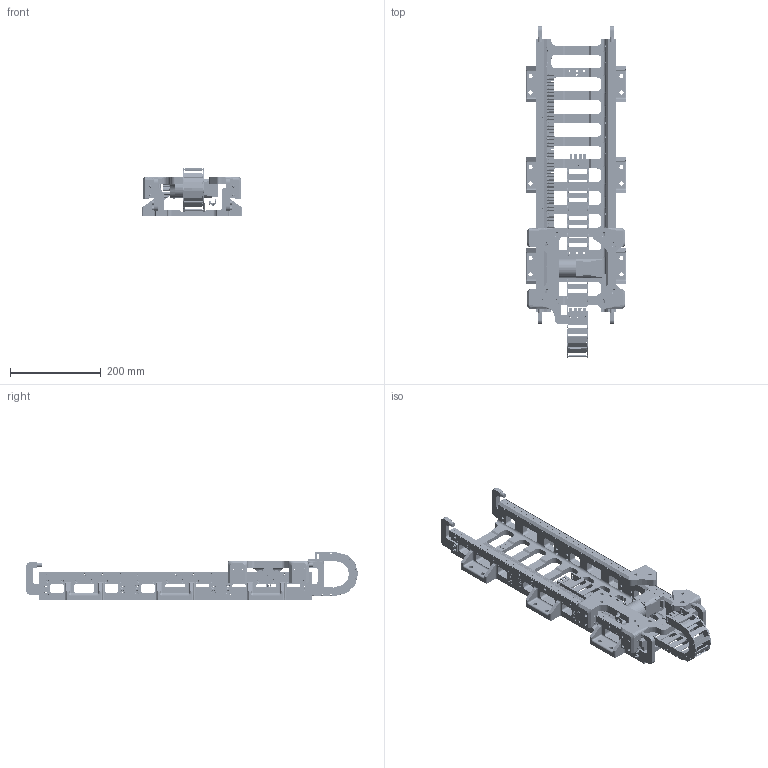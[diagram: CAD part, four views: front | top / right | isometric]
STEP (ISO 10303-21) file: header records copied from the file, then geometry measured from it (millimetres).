
FILE_DESCRIPTION (( 'STEP AP214' ), '1' );
FILE_NAME ('astorino_linearTrack.STEP', '2024-05-02T08:32:28', ( '' ), ( '' ), 'SwSTEP 2.0', 'SolidWorks 2021', '' );
FILE_SCHEMA (( 'AUTOMOTIVE_DESIGN' ));
Length unit declared in the file: millimetre
Products named in the file (1): astorino_linearTrack
Bounding box: 220 x 729.73 x 104.3 mm (x, y, z)
Surface area: 649349.2 mm2 (no closed solid volume)
Topology: 0 solids, 373 shells, 3723 faces, 14251 edges, 10624 vertices
Faces by surface type: plane 2166, cylinder 1190, cone 192, torus 133, bspline 28, sphere 14
Entity records: 194158 total; most frequent: CARTESIAN_POINT 33677, DIRECTION 25023, ORIENTED_EDGE 21349, EDGE_CURVE 14227, VERTEX_POINT 10624, LINE 9789, VECTOR 9789, AXIS2_PLACEMENT_3D 7617
